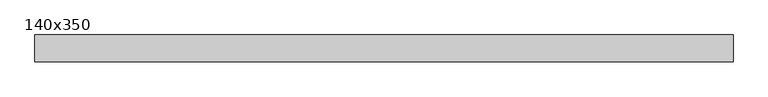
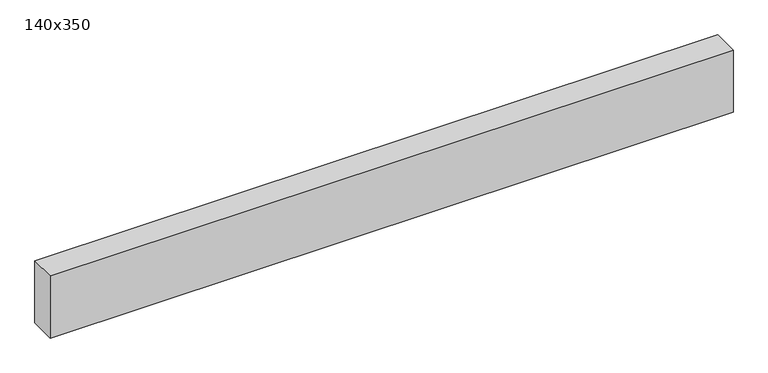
"""IFC4 building model written with IfcOpenShell, lengths in millimetres: beam geometry, Bjelke Limtre Stiplet : 140x350."""

import ifcopenshell
import ifcopenshell.guid

model = None  # the IFC model being written
_history = None  # IfcOwnerHistory: only IFC2X3 demands one
_inside = {}  # id of a spatial element -> (the spatial element, [elements in it])
_under = {}  # id of a project, library or spatial element -> (it, [spatial elements below it])
_declared = {}  # id of a project -> (the project, [libraries it declares])
_typed = {}  # id of a type object -> (the type object, [elements of that type])
_made_of = {}  # id of a material, layer set ... -> (it, [elements and type objects made of it])


def new_model(schema):
    """Start an empty IFC model of exactly this schema.

    Asked for "IFC4X3", IfcOpenShell would pick the latest addendum, in which some entities
    have other attributes; the version numbers below select the first issue.
    IFC2X3 requires an IfcOwnerHistory on every rooted entity: one is made here for all.
    """
    global model, _history
    if schema == "IFC4X3":
        model = ifcopenshell.file(schema_version=(4, 3, 0, 0))
    else:
        model = ifcopenshell.file(schema=schema)
    _inside.clear()
    _under.clear()
    _declared.clear()
    _typed.clear()
    _made_of.clear()
    _history = None
    if model.schema == "IFC2X3":
        org = make("IfcOrganization", Name="unknown")
        user = make(
            "IfcPersonAndOrganization",
            ThePerson=make("IfcPerson", FamilyName="unknown"),
            TheOrganization=org,
        )
        app = make(
            "IfcApplication",
            ApplicationDeveloper=org,
            Version="unknown",
            ApplicationFullName="unknown",
            ApplicationIdentifier="unknown",
        )
        _history = make(
            "IfcOwnerHistory",
            OwningUser=user,
            OwningApplication=app,
            ChangeAction="ADDED",
            CreationDate=0,
        )
    return model


def make(cls, **values):
    """One entity of the class cls with the attributes given. An attribute that is None is left unset."""
    return model.create_entity(
        cls, **{name: value for name, value in values.items() if value is not None}
    )


def rooted(cls, **values):
    """An entity with a GlobalId (a new one), such as an element, a storey or a relation."""
    return make(cls, GlobalId=ifcopenshell.guid.new(), OwnerHistory=_history, **values)


def si_unit(unit_type, name, prefix=None):
    """IfcSIUnit, for example si_unit("LENGTHUNIT", "METRE", prefix="MILLI")."""
    return make("IfcSIUnit", UnitType=unit_type, Prefix=prefix, Name=name)


def assignment(units):
    """IfcUnitAssignment: the units of a project."""
    return None if units is None else make("IfcUnitAssignment", Units=units)


def point(xyz):
    """IfcCartesianPoint."""
    return None if xyz is None else make("IfcCartesianPoint", Coordinates=xyz)


def direction(xyz):
    """IfcDirection."""
    return None if xyz is None else make("IfcDirection", DirectionRatios=xyz)


def frame(location, z_axis=None, x_axis=None):
    """IfcAxis2Placement3D, a coordinate frame: its origin and axes. An axis left out is left unset."""
    return make(
        "IfcAxis2Placement3D",
        Location=point(location),
        Axis=direction(z_axis),
        RefDirection=direction(x_axis),
    )


def origin():
    """The frame at (0, 0, 0) with its axes left unset."""
    return frame((0.0, 0.0, 0.0))


def place(relative_to, where):
    """IfcLocalPlacement: puts the frame where relative to a parent placement (None: the world)."""
    return make(
        "IfcLocalPlacement", PlacementRelTo=relative_to, RelativePlacement=where
    )


def context(
    kind, dimensions, precision=None, world=None, true_north=None, identifier=None
):
    """IfcGeometricRepresentationContext, for example the 3D "Model" context."""
    return make(
        "IfcGeometricRepresentationContext",
        ContextIdentifier=identifier,
        ContextType=kind,
        CoordinateSpaceDimension=dimensions,
        Precision=precision,
        WorldCoordinateSystem=world,
        TrueNorth=true_north,
    )


def project(units=None, contexts=None):
    """IfcProject with its units and contexts."""
    return rooted(
        "IfcProject",
        Name="project",
        RepresentationContexts=contexts,
        UnitsInContext=assignment(units),
    )


def spatial(cls, under=None, at=None, **own):
    """A site, building, storey or space (cls), placed at a placement, below another one or the project."""
    s = rooted(cls, ObjectPlacement=at, **own)
    if under is not None:
        _under.setdefault(under.id(), (under, []))[1].append(s)
    return s


def polyline(points):
    """IfcPolyline through the points."""
    return make("IfcPolyline", Points=[point(p) for p in points])


def outline(outer, holes=None, kind="AREA"):
    """IfcArbitraryClosedProfileDef: a profile drawn as a closed curve; with holes, ...WithVoids."""
    if holes is None:
        return make("IfcArbitraryClosedProfileDef", ProfileType=kind, OuterCurve=outer)
    return make(
        "IfcArbitraryProfileDefWithVoids",
        ProfileType=kind,
        OuterCurve=outer,
        InnerCurves=holes,
    )


def extrude(swept, where, along, depth):
    """IfcExtrudedAreaSolid: the profile swept, set in the frame where, extruded along a direction by depth."""
    return make(
        "IfcExtrudedAreaSolid",
        SweptArea=swept,
        Position=where,
        ExtrudedDirection=direction(along),
        Depth=depth,
    )


def shape(context_of_items, identifier, shape_type, items):
    """IfcShapeRepresentation: the items that make up one representation, for example the "Body"."""
    return make(
        "IfcShapeRepresentation",
        ContextOfItems=context_of_items,
        RepresentationIdentifier=identifier,
        RepresentationType=shape_type,
        Items=items,
    )


def source(mapping_origin, context_of_items, identifier, shape_type, items):
    """IfcRepresentationMap: a shape defined once, which mapped items show again and again."""
    return make(
        "IfcRepresentationMap",
        MappingOrigin=mapping_origin,
        MappedRepresentation=shape(context_of_items, identifier, shape_type, items),
    )


def transform(
    local_origin,
    x_axis=None,
    y_axis=None,
    z_axis=None,
    scale=None,
    scale2=None,
    scale3=None,
    uniform=True,
):
    """IfcCartesianTransformationOperator3D, or its non-uniform kind. x_axis, y_axis, z_axis: its Axis1, 2, 3."""
    if uniform:
        return make(
            "IfcCartesianTransformationOperator3D",
            Axis1=direction(x_axis),
            Axis2=direction(y_axis),
            LocalOrigin=point(local_origin),
            Scale=scale,
            Axis3=direction(z_axis),
        )
    return make(
        "IfcCartesianTransformationOperator3DnonUniform",
        Axis1=direction(x_axis),
        Axis2=direction(y_axis),
        LocalOrigin=point(local_origin),
        Scale=scale,
        Axis3=direction(z_axis),
        Scale2=scale2,
        Scale3=scale3,
    )


def mapped(mapping_source, mapping_target):
    """IfcMappedItem: shows the shape of a source again, moved by a transform."""
    return make(
        "IfcMappedItem", MappingSource=mapping_source, MappingTarget=mapping_target
    )


def made_of(thing, what):
    """Note that an element or type object is made of a material, layer set ...; save() writes the relation."""
    if what is not None:
        _made_of.setdefault(what.id(), (what, []))[1].append(thing)
    return thing


def element(
    cls,
    number,
    at=None,
    inside=None,
    cuts=None,
    type_object=None,
    material=None,
    context=None,
    identifier="Body",
    shape_type=None,
    held_by="IfcProductDefinitionShape",
    body=None,
    shapes=None,
    **own,
):
    """One element of the class cls, such as IfcWall. Its Tag is "e" and its number.

    at: its placement. inside: the storey or other place that contains it. cuts: it is an
    opening in that element (IfcRelVoidsElement). A single representation is given by context,
    identifier, shape_type and body (its items); several are given by shapes. held_by: the class
    of the entity that holds the representations. save() writes the other relations.
    """
    e = rooted(cls, Tag="e%d" % number, ObjectPlacement=at, **own)
    if body is not None:
        shapes = [shape(context, identifier, shape_type, body)]
    if shapes is not None:
        e.Representation = make(held_by, Representations=shapes)
    if inside is not None:
        _inside.setdefault(inside.id(), (inside, []))[1].append(e)
    if cuts is not None:
        rooted(
            "IfcRelVoidsElement", RelatingBuildingElement=cuts, RelatedOpeningElement=e
        )
    if type_object is not None:
        _typed.setdefault(type_object.id(), (type_object, []))[1].append(e)
    return made_of(e, material)


def aggregate(whole, parts):
    """IfcRelAggregates: a whole, such as a stair, and the parts it consists of."""
    return rooted("IfcRelAggregates", RelatingObject=whole, RelatedObjects=parts)


def save(model, path):
    """Write the relations noted so far, then the file.

    IfcRelAggregates (storeys below a building ...), IfcRelContainedInSpatialStructure (elements
    in a storey), IfcRelDefinesByType, IfcRelAssociatesMaterial and IfcRelDeclares: one each for
    every whole, place, type object, material and project.
    """
    for whole, parts in _under.values():
        aggregate(whole, parts)
    for where, things in _inside.values():
        rooted(
            "IfcRelContainedInSpatialStructure",
            RelatedElements=things,
            RelatingStructure=where,
        )
    for kind, things in _typed.values():
        rooted("IfcRelDefinesByType", RelatedObjects=things, RelatingType=kind)
    for what, things in _made_of.values():
        rooted("IfcRelAssociatesMaterial", RelatedObjects=things, RelatingMaterial=what)
    for by, libraries in _declared.values():
        rooted("IfcRelDeclares", RelatingContext=by, RelatedDefinitions=libraries)
    model.write(path)


def beam_140x350_44efd8b1(model_context):
    return source(origin(), model_context, "Body", "SweptSolid", [
        extrude(outline(polyline([(1813.0, 70.0), (1813.0, -70.0), (-1813.0, -70.0), (-1813.0, 70.0), (1813.0, 70.0)])), frame((0.0, 0.0, -301.0), z_axis=(0.0, 0.0, 1.0), x_axis=(1.0, 0.0, 0.0)), (0.0, 0.0, 1.0), 350.0),
    ])


if __name__ == "__main__":
    model = new_model("IFC4")
    model_context = context("Model", 3, world=origin())
    ifc_project = project(units=[si_unit("LENGTHUNIT", "METRE", prefix="MILLI")], contexts=[model_context])
    site = spatial("IfcSite", under=ifc_project)
    building = spatial("IfcBuilding", under=site)
    placement = place(None, origin())
    beam_140x350_shape = beam_140x350_44efd8b1(model_context)
    element("IfcBeam", 1, ObjectType="Bjelke Limtre Stiplet : 140x350", at=placement, inside=building, context=model_context, shape_type="MappedRepresentation", body=[
        mapped(beam_140x350_shape, transform((0.0, 0.0, 0.0), x_axis=(1.0, 0.0, 0.0), y_axis=(0.0, 1.0, 0.0), z_axis=(0.0, 0.0, 1.0))),
    ])
    save(model, "model.ifc")
